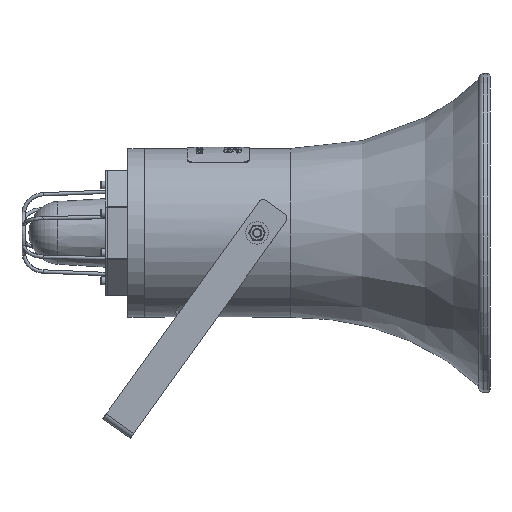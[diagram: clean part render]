
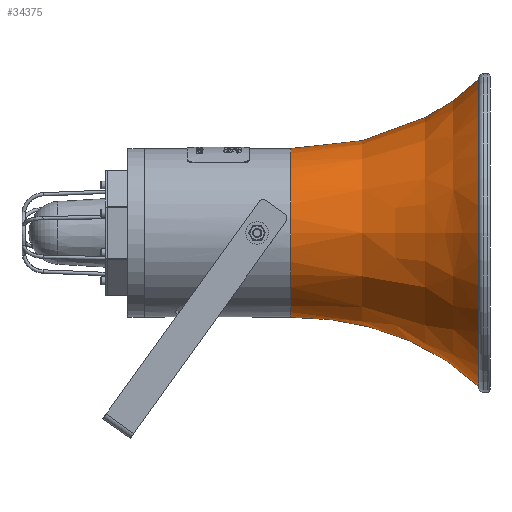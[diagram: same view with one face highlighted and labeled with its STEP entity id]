
A CAD part, left-side view. The second image highlights one B-rep face of the part: STEP entity #34375.
In plain terms, the highlighted free-form (B-spline) face has degree [3, 3] with [4, 7] control points.
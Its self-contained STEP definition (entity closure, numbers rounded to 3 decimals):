
#1131 = EDGE_CURVE ( 'NONE', #49746, #49746, #16997, .T. ) ;
#1239 = CARTESIAN_POINT ( 'NONE',  ( 192.918, 52.42, -96.459 ) ) ;
#1428 = CARTESIAN_POINT ( 'NONE',  ( 0., 177., -75. ) ) ;
#1725 = AXIS2_PLACEMENT_3D ( 'NONE', #44900, #17063, #49598 ) ;
#2080 = ORIENTED_EDGE ( 'NONE', *, *, #51508, .T. ) ;
#4835 = ORIENTED_EDGE ( 'NONE', *, *, #1131, .F. ) ;
#5842 = CARTESIAN_POINT ( 'NONE',  ( 0., 52.42, 96.459 ) ) ;
#6042 = CARTESIAN_POINT ( 'NONE',  ( 150., 177., 75. ) ) ;
#6891 = AXIS2_PLACEMENT_3D ( 'NONE', #35033, #7292, #39624 ) ;
#7292 = DIRECTION ( 'NONE',  ( 0., -1., 0. ) ) ;
#7445 = FACE_OUTER_BOUND ( 'NONE', #40071, .T. ) ;
#10232 = CARTESIAN_POINT ( 'NONE',  ( -273., 10., -136.5 ) ) ;
#10441 = CARTESIAN_POINT ( 'NONE',  ( -150., 110.333, 75. ) ) ;
#10958 = CIRCLE ( 'NONE', #1725, 75. ) ;
#13298 = FACE_OUTER_BOUND ( 'NONE', #25781, .T. ) ;
#14872 = CARTESIAN_POINT ( 'NONE',  ( 273., 10., -136.5 ) ) ;
#15075 = CARTESIAN_POINT ( 'NONE',  ( 0., 110.333, -75. ) ) ;
#16997 = CIRCLE ( 'NONE', #6891, 136.5 ) ;
#17063 = DIRECTION ( 'NONE',  ( 0., -1., 0. ) ) ;
#19400 = CARTESIAN_POINT ( 'NONE',  ( 0., 177., -75. ) ) ;
#19518 = CARTESIAN_POINT ( 'NONE',  ( 0., 10., 136.5 ) ) ;
#19716 = CARTESIAN_POINT ( 'NONE',  ( 150., 110.333, 75. ) ) ;
#24168 = CARTESIAN_POINT ( 'NONE',  ( -192.918, 52.42, 96.459 ) ) ;
#24381 = CARTESIAN_POINT ( 'NONE',  ( 0., 177., 75. ) ) ;
#25781 = EDGE_LOOP ( 'NONE', ( #2080 ) ) ;
#28883 = CARTESIAN_POINT ( 'NONE',  ( 0., 52.42, -96.459 ) ) ;
#29088 = CARTESIAN_POINT ( 'NONE',  ( -150., 177., -75. ) ) ;
#33585 = CARTESIAN_POINT ( 'NONE',  ( 192.918, 52.42, 96.459 ) ) ;
#33781 = CARTESIAN_POINT ( 'NONE',  ( 150., 177., -75. ) ) ;
#34375 = ADVANCED_FACE ( 'NONE', ( #13298, #7445 ), #46601, .T. ) ;
#35033 = CARTESIAN_POINT ( 'NONE',  ( 0., 10., 0. ) ) ;
#36442 = VERTEX_POINT ( 'NONE', #19400 ) ;
#37984 = CARTESIAN_POINT ( 'NONE',  ( -273., 10., 136.5 ) ) ;
#38182 = CARTESIAN_POINT ( 'NONE',  ( 0., 110.333, 75. ) ) ;
#38374 = CARTESIAN_POINT ( 'NONE',  ( 0., 177., 75. ) ) ;
#39624 = DIRECTION ( 'NONE',  ( 0., 0., -1. ) ) ;
#40071 = EDGE_LOOP ( 'NONE', ( #4835 ) ) ;
#42652 = CARTESIAN_POINT ( 'NONE',  ( 0., 10., -136.5 ) ) ;
#42864 = CARTESIAN_POINT ( 'NONE',  ( -150., 110.333, -75. ) ) ;
#44900 = CARTESIAN_POINT ( 'NONE',  ( 0., 177., 0. ) ) ;
#46601 =( BOUNDED_SURFACE ( )  B_SPLINE_SURFACE ( 3, 3, ( 
 ( #47186, #37984, #10232, #42652, #14872, #47399, #19518 ),
 ( #52070, #24168, #56783, #28883, #1239, #33585, #5842 ),
 ( #38182, #10441, #42864, #15075, #47599, #19716, #52268 ),
 ( #24381, #56991, #29088, #1428, #33781, #6042, #38374 ) ),
 .UNSPECIFIED., .F., .T., .F. ) 
 B_SPLINE_SURFACE_WITH_KNOTS ( ( 4, 4 ),
 ( 4, 3, 4 ),
 ( 0., 1. ),
 ( 0., 0.5, 1. ),
 .UNSPECIFIED. ) 
 GEOMETRIC_REPRESENTATION_ITEM ( )  RATIONAL_B_SPLINE_SURFACE ( (
 ( 1., 0.333, 0.333, 1., 0.333, 0.333, 1.),
 ( 1., 0.333, 0.333, 1., 0.333, 0.333, 1.),
 ( 1., 0.333, 0.333, 1., 0.333, 0.333, 1.),
 ( 1., 0.333, 0.333, 1., 0.333, 0.333, 1.) ) ) 
 REPRESENTATION_ITEM ( '' )  SURFACE ( )  );
#47186 = CARTESIAN_POINT ( 'NONE',  ( 0., 10., 136.5 ) ) ;
#47399 = CARTESIAN_POINT ( 'NONE',  ( 273., 10., 136.5 ) ) ;
#47599 = CARTESIAN_POINT ( 'NONE',  ( 150., 110.333, -75. ) ) ;
#49598 = DIRECTION ( 'NONE',  ( 0., 0., -1. ) ) ;
#49746 = VERTEX_POINT ( 'NONE', #56735 ) ;
#51508 = EDGE_CURVE ( 'NONE', #36442, #36442, #10958, .T. ) ;
#52070 = CARTESIAN_POINT ( 'NONE',  ( 0., 52.42, 96.459 ) ) ;
#52268 = CARTESIAN_POINT ( 'NONE',  ( 0., 110.333, 75. ) ) ;
#56735 = CARTESIAN_POINT ( 'NONE',  ( 0., 10., -136.5 ) ) ;
#56783 = CARTESIAN_POINT ( 'NONE',  ( -192.918, 52.42, -96.459 ) ) ;
#56991 = CARTESIAN_POINT ( 'NONE',  ( -150., 177., 75. ) ) ;
